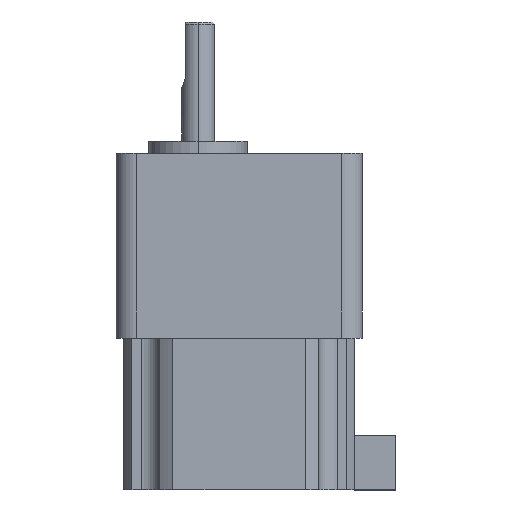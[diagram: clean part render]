
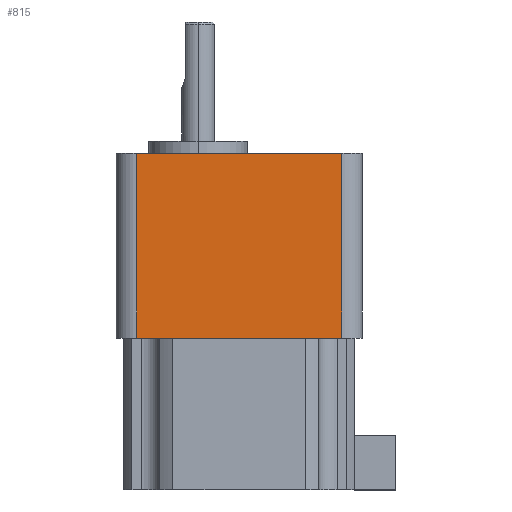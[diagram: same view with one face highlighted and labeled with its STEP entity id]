
A CAD part, left-side view. The second image highlights one B-rep face of the part: STEP entity #815.
In plain terms, the highlighted planar face has unit normal (-1, 0, 0).
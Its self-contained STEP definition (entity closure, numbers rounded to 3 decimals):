
#12 = DIRECTION ( 'NONE',  ( 0., 0., 1. ) ) ;
#175 = ORIENTED_EDGE ( 'NONE', *, *, #1785, .T. ) ;
#309 = CARTESIAN_POINT ( 'NONE',  ( -30., -35., -45. ) ) ;
#326 = DIRECTION ( 'NONE',  ( 0., 0., -1. ) ) ;
#328 = AXIS2_PLACEMENT_3D ( 'NONE', #309, #497, #326 ) ;
#352 = LINE ( 'NONE', #939, #1531 ) ;
#416 = DIRECTION ( 'NONE',  ( 0., 1., 0. ) ) ;
#497 = DIRECTION ( 'NONE',  ( 1., 0., 0. ) ) ;
#533 = CARTESIAN_POINT ( 'NONE',  ( -30., 15., 0. ) ) ;
#609 = ORIENTED_EDGE ( 'NONE', *, *, #1483, .T. ) ;
#619 = CARTESIAN_POINT ( 'NONE',  ( -30., 15., -45. ) ) ;
#762 = EDGE_LOOP ( 'NONE', ( #609, #1990, #1962, #175 ) ) ;
#768 = LINE ( 'NONE', #1888, #1951 ) ;
#815 = ADVANCED_FACE ( 'NONE', ( #1913 ), #1706, .F. ) ;
#931 = VECTOR ( 'NONE', #416, 1000. ) ;
#939 = CARTESIAN_POINT ( 'NONE',  ( -30., 15., -45. ) ) ;
#955 = LINE ( 'NONE', #1643, #1925 ) ;
#966 = CARTESIAN_POINT ( 'NONE',  ( -30., -35., 0. ) ) ;
#1034 = VERTEX_POINT ( 'NONE', #619 ) ;
#1164 = VERTEX_POINT ( 'NONE', #1779 ) ;
#1169 = DIRECTION ( 'NONE',  ( 0., 1., 0. ) ) ;
#1191 = EDGE_CURVE ( 'NONE', #1327, #1034, #955, .T. ) ;
#1211 = VERTEX_POINT ( 'NONE', #533 ) ;
#1327 = VERTEX_POINT ( 'NONE', #1819 ) ;
#1358 = LINE ( 'NONE', #966, #931 ) ;
#1483 = EDGE_CURVE ( 'NONE', #1164, #1211, #1358, .T. ) ;
#1531 = VECTOR ( 'NONE', #1578, 1000. ) ;
#1578 = DIRECTION ( 'NONE',  ( 0., 0., 1. ) ) ;
#1643 = CARTESIAN_POINT ( 'NONE',  ( -30., -35., -45. ) ) ;
#1706 = PLANE ( 'NONE',  #328 ) ;
#1773 = EDGE_CURVE ( 'NONE', #1034, #1211, #352, .T. ) ;
#1779 = CARTESIAN_POINT ( 'NONE',  ( -30., -35., 0. ) ) ;
#1785 = EDGE_CURVE ( 'NONE', #1327, #1164, #768, .T. ) ;
#1819 = CARTESIAN_POINT ( 'NONE',  ( -30., -35., -45. ) ) ;
#1888 = CARTESIAN_POINT ( 'NONE',  ( -30., -35., -45. ) ) ;
#1913 = FACE_OUTER_BOUND ( 'NONE', #762, .T. ) ;
#1925 = VECTOR ( 'NONE', #1169, 1000. ) ;
#1951 = VECTOR ( 'NONE', #12, 1000. ) ;
#1962 = ORIENTED_EDGE ( 'NONE', *, *, #1191, .F. ) ;
#1990 = ORIENTED_EDGE ( 'NONE', *, *, #1773, .F. ) ;
